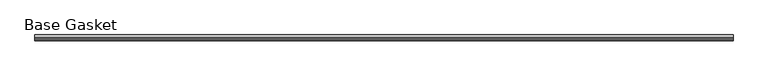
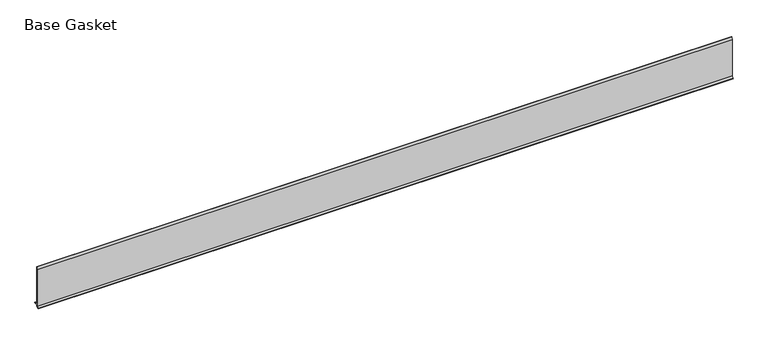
"""IFC4 building model written with IfcOpenShell, lengths in millimetres: furniture geometry, Gasket-Teknion-FHGB-AI_Healthcare-R2021 : Base Gasket."""

from ifc_helpers import new_model, si_unit, frame, origin, place, context, project, spatial, polyline, outline, extrude, source, transform, mapped, element, save


def base_gasket_ab7c9cfa(model_context):
    return source(origin(), model_context, "Body", "SweptSolid", [
        extrude(outline(polyline([(-3.7283812, 98.4568417), (-1.1891543, 104.587663), (-0.6755308, 105.2002997), (-0.6755308, 104.4162708), (-2.2043812, 98.4568417), (-2.2043812, 96.8693477), (-1.4106313, 96.8693477), (-1.4106313, 71.4693447), (-2.2043812, 71.4693447), (-2.2043812, 7.9398773), (6.2405171, 7.9398773), (6.2405171, 6.3818476), (-2.1334222, 6.3818476), (-2.2043812, 4.3498477), (-6.8281054, 0.3520979), (-7.8482342, 0.0), (-7.4222115, 0.6560174), (-3.7283812, 4.3498477), (-3.7283812, 98.4568417)])), frame((-1527.8982117, 0.0, 0.0), z_axis=(1.0, 0.0, 0.0), x_axis=(0.0, 1.0, 0.0)), (0.0, 0.0, 1.0), 1711.910821),
    ])


if __name__ == "__main__":
    model = new_model("IFC4")
    model_context = context("Model", 3, world=origin())
    ifc_project = project(units=[si_unit("LENGTHUNIT", "METRE", prefix="MILLI")], contexts=[model_context])
    site = spatial("IfcSite", under=ifc_project)
    building = spatial("IfcBuilding", under=site)
    placement = place(None, origin())
    base_gasket_shape = base_gasket_ab7c9cfa(model_context)
    element("IfcFurniture", 1, ObjectType="Gasket-Teknion-FHGB-AI_Healthcare-R2021 : Base Gasket", at=placement, inside=building, context=model_context, shape_type="MappedRepresentation", body=[
        mapped(base_gasket_shape, transform((0.0, 0.0, 0.0), x_axis=(1.0, 0.0, 0.0), y_axis=(0.0, 1.0, 0.0), z_axis=(0.0, 0.0, 1.0))),
    ])
    save(model, "model.ifc")
